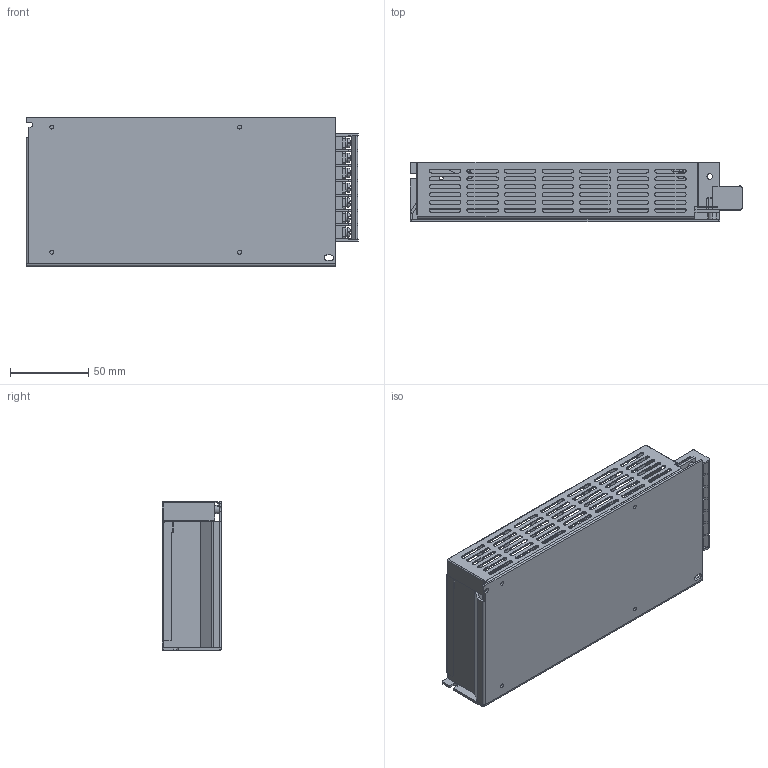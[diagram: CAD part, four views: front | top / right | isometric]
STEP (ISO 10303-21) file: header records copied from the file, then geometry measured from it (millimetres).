
FILE_DESCRIPTION (( 'STEP AP214' ), '1' );
FILE_NAME ('TXL-100.STEP', '2019-07-09T09:11:33', ( 'users' ), ( '' ), 'SwSTEP 2.0', 'SolidWorks 2012', '' );
FILE_SCHEMA (( 'AUTOMOTIVE_DESIGN' ));
Length unit declared in the file: millimetre
Products named in the file (6): LABEL; TML; PCB; COVER; CASE; TXL-100
Assembly tree (5 placements, depth 2):
  TXL-100
    CASE
    COVER
    PCB
    TML
    LABEL
Bounding box: 212.13 x 38.1 x 95 mm (x, y, z)
Volume: 95894.2 mm3; surface area: 148558.5 mm2
Topology: 5 solids, 5 shells, 1898 faces, 5337 edges, 3499 vertices
Faces by surface type: plane 1180, cylinder 644, bspline 46, torus 14, cone 14
Entity records: 69267 total; most frequent: CARTESIAN_POINT 14192, ORIENTED_EDGE 10674, DIRECTION 10219, EDGE_CURVE 5337, VECTOR 3767, LINE 3767, VERTEX_POINT 3499, AXIS2_PLACEMENT_3D 3226
